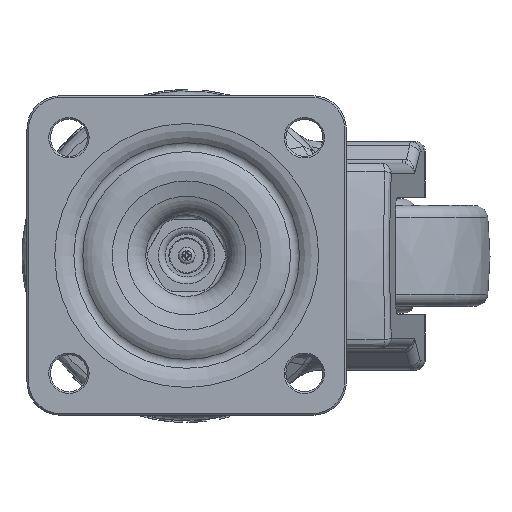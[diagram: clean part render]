
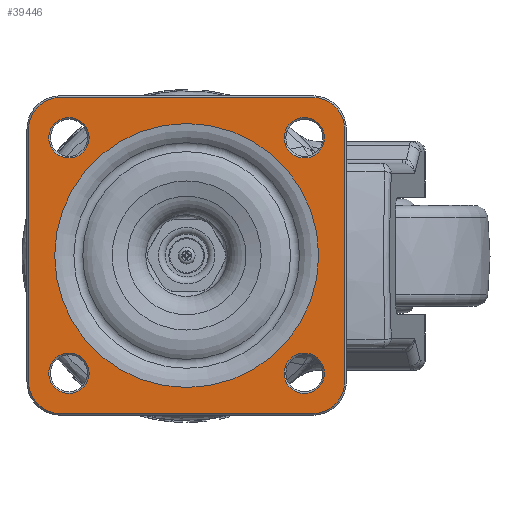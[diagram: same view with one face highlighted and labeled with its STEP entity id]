
A CAD part, top view. The second image highlights one B-rep face of the part: STEP entity #39446.
In plain terms, the highlighted planar face has unit normal (0, 0, 1).
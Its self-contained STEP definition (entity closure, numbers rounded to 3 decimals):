
#394=PLANE('',#43657);
#1941=LINE('',#108064,#3717);
#1945=LINE('',#108078,#3721);
#1947=LINE('',#108083,#3723);
#1951=LINE('',#108096,#3727);
#3717=VECTOR('',#52769,7.5);
#3721=VECTOR('',#52785,7.5);
#3723=VECTOR('',#52789,7.5);
#3727=VECTOR('',#52805,7.5);
#7871=FACE_BOUND('',#12578,.T.);
#7872=FACE_BOUND('',#12579,.T.);
#7873=FACE_BOUND('',#12580,.T.);
#7874=FACE_BOUND('',#12581,.T.);
#7875=FACE_BOUND('',#12582,.T.);
#9894=FACE_OUTER_BOUND('',#12577,.T.);
#12577=EDGE_LOOP('',(#34052,#34053,#34054,#34055,#34056,#34057,#34058,#34059));
#12578=EDGE_LOOP('',(#34060));
#12579=EDGE_LOOP('',(#34061));
#12580=EDGE_LOOP('',(#34062));
#12581=EDGE_LOOP('',(#34063));
#12582=EDGE_LOOP('',(#34064));
#15279=CIRCLE('',#43574,3.925);
#15288=CIRCLE('',#43591,0.6);
#15292=CIRCLE('',#43598,0.6);
#15296=CIRCLE('',#43605,0.6);
#15300=CIRCLE('',#43612,0.6);
#15313=CIRCLE('',#43642,0.95);
#15314=CIRCLE('',#43644,0.95);
#15316=CIRCLE('',#43649,0.95);
#15317=CIRCLE('',#43651,0.95);
#18260=VERTEX_POINT('',#107631);
#18281=VERTEX_POINT('',#107951);
#18285=VERTEX_POINT('',#107962);
#18289=VERTEX_POINT('',#107973);
#18293=VERTEX_POINT('',#107984);
#18317=VERTEX_POINT('',#108060);
#18318=VERTEX_POINT('',#108062);
#18319=VERTEX_POINT('',#108066);
#18321=VERTEX_POINT('',#108071);
#18322=VERTEX_POINT('',#108076);
#18324=VERTEX_POINT('',#108081);
#18325=VERTEX_POINT('',#108086);
#18327=VERTEX_POINT('',#108091);
#23650=EDGE_CURVE('',#18260,#18260,#15279,.T.);
#23671=EDGE_CURVE('',#18281,#18281,#15288,.T.);
#23675=EDGE_CURVE('',#18285,#18285,#15292,.T.);
#23679=EDGE_CURVE('',#18289,#18289,#15296,.T.);
#23683=EDGE_CURVE('',#18293,#18293,#15300,.T.);
#23721=EDGE_CURVE('',#18318,#18317,#1941,.T.);
#23723=EDGE_CURVE('',#18317,#18319,#15313,.T.);
#23725=EDGE_CURVE('',#18321,#18318,#15314,.T.);
#23728=EDGE_CURVE('',#18319,#18322,#1945,.T.);
#23730=EDGE_CURVE('',#18324,#18321,#1947,.T.);
#23733=EDGE_CURVE('',#18322,#18325,#15316,.T.);
#23735=EDGE_CURVE('',#18327,#18324,#15317,.T.);
#23737=EDGE_CURVE('',#18325,#18327,#1951,.T.);
#34052=ORIENTED_EDGE('',*,*,#23721,.F.);
#34053=ORIENTED_EDGE('',*,*,#23725,.F.);
#34054=ORIENTED_EDGE('',*,*,#23730,.F.);
#34055=ORIENTED_EDGE('',*,*,#23735,.F.);
#34056=ORIENTED_EDGE('',*,*,#23737,.F.);
#34057=ORIENTED_EDGE('',*,*,#23733,.F.);
#34058=ORIENTED_EDGE('',*,*,#23728,.F.);
#34059=ORIENTED_EDGE('',*,*,#23723,.F.);
#34060=ORIENTED_EDGE('',*,*,#23683,.F.);
#34061=ORIENTED_EDGE('',*,*,#23675,.F.);
#34062=ORIENTED_EDGE('',*,*,#23650,.F.);
#34063=ORIENTED_EDGE('',*,*,#23671,.F.);
#34064=ORIENTED_EDGE('',*,*,#23679,.F.);
#39446=ADVANCED_FACE('',(#9894,#7871,#7872,#7873,#7874,#7875),#394,.T.);
#43574=AXIS2_PLACEMENT_3D('',#107632,#52610,#52611);
#43591=AXIS2_PLACEMENT_3D('',#107952,#52644,#52645);
#43598=AXIS2_PLACEMENT_3D('',#107963,#52658,#52659);
#43605=AXIS2_PLACEMENT_3D('',#107974,#52672,#52673);
#43612=AXIS2_PLACEMENT_3D('',#107985,#52686,#52687);
#43642=AXIS2_PLACEMENT_3D('',#108068,#52773,#52774);
#43644=AXIS2_PLACEMENT_3D('',#108073,#52778,#52779);
#43649=AXIS2_PLACEMENT_3D('',#108088,#52794,#52795);
#43651=AXIS2_PLACEMENT_3D('',#108093,#52799,#52800);
#43657=AXIS2_PLACEMENT_3D('',#108104,#52816,#52817);
#52610=DIRECTION('center_axis',(0.,0.,1.));
#52611=DIRECTION('ref_axis',(-1.,0.,0.));
#52644=DIRECTION('center_axis',(0.,0.,1.));
#52645=DIRECTION('ref_axis',(-1.,0.,0.));
#52658=DIRECTION('center_axis',(0.,0.,1.));
#52659=DIRECTION('ref_axis',(-1.,0.,0.));
#52672=DIRECTION('center_axis',(0.,0.,1.));
#52673=DIRECTION('ref_axis',(-1.,0.,0.));
#52686=DIRECTION('center_axis',(0.,0.,1.));
#52687=DIRECTION('ref_axis',(-1.,0.,0.));
#52769=DIRECTION('',(-1.,0.,0.));
#52773=DIRECTION('center_axis',(0.,0.,
-1.));
#52774=DIRECTION('ref_axis',(-0.707,-0.707,0.));
#52778=DIRECTION('center_axis',(0.,0.,
-1.));
#52779=DIRECTION('ref_axis',(0.707,-0.707,0.));
#52785=DIRECTION('',(0.,1.,0.));
#52789=DIRECTION('',(0.,-1.,0.));
#52794=DIRECTION('center_axis',(0.,0.,
-1.));
#52795=DIRECTION('ref_axis',(-0.707,0.707,0.));
#52799=DIRECTION('center_axis',(0.,0.,
-1.));
#52800=DIRECTION('ref_axis',(0.707,0.707,0.));
#52805=DIRECTION('',(1.,0.,0.));
#52816=DIRECTION('center_axis',(0.,0.,1.));
#52817=DIRECTION('ref_axis',(0.,-1.,0.));
#107631=CARTESIAN_POINT('',(-3.925,0.,1.453));
#107632=CARTESIAN_POINT('Origin',(0.,0.,
1.453));
#107951=CARTESIAN_POINT('',(-2.9,3.5,1.453));
#107952=CARTESIAN_POINT('Origin',(-3.5,3.5,1.453));
#107962=CARTESIAN_POINT('',(4.1,3.5,1.453));
#107963=CARTESIAN_POINT('Origin',(3.5,3.5,1.453));
#107973=CARTESIAN_POINT('',(4.1,-3.5,1.453));
#107974=CARTESIAN_POINT('Origin',(3.5,-3.5,1.453));
#107984=CARTESIAN_POINT('',(-2.9,-3.5,1.453));
#107985=CARTESIAN_POINT('Origin',(-3.5,-3.5,1.453));
#108060=CARTESIAN_POINT('',(-3.75,-4.7,1.453));
#108062=CARTESIAN_POINT('',(3.75,-4.7,1.453));
#108064=CARTESIAN_POINT('',(3.75,-4.7,1.453));
#108066=CARTESIAN_POINT('',(-4.7,-3.75,1.453));
#108068=CARTESIAN_POINT('Origin',(-3.75,-3.75,1.453));
#108071=CARTESIAN_POINT('',(4.7,-3.75,1.453));
#108073=CARTESIAN_POINT('Origin',(3.75,-3.75,1.453));
#108076=CARTESIAN_POINT('',(-4.7,3.75,1.453));
#108078=CARTESIAN_POINT('',(-4.7,-3.75,1.453));
#108081=CARTESIAN_POINT('',(4.7,3.75,1.453));
#108083=CARTESIAN_POINT('',(4.7,3.75,1.453));
#108086=CARTESIAN_POINT('',(-3.75,4.7,1.453));
#108088=CARTESIAN_POINT('Origin',(-3.75,3.75,1.453));
#108091=CARTESIAN_POINT('',(3.75,4.7,1.453));
#108093=CARTESIAN_POINT('Origin',(3.75,3.75,1.453));
#108096=CARTESIAN_POINT('',(-3.75,4.7,1.453));
#108104=CARTESIAN_POINT('Origin',(-3.965,0.,
1.453));
